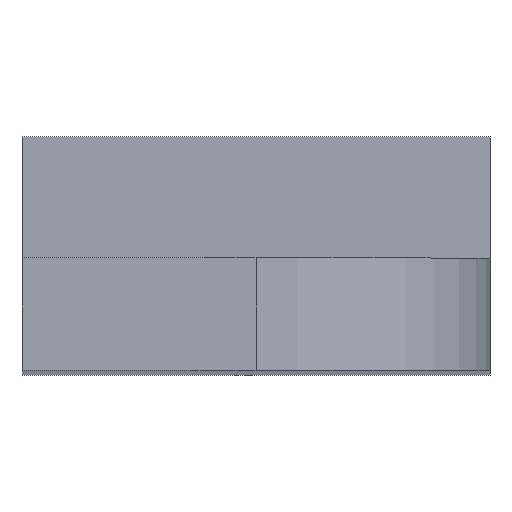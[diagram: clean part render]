
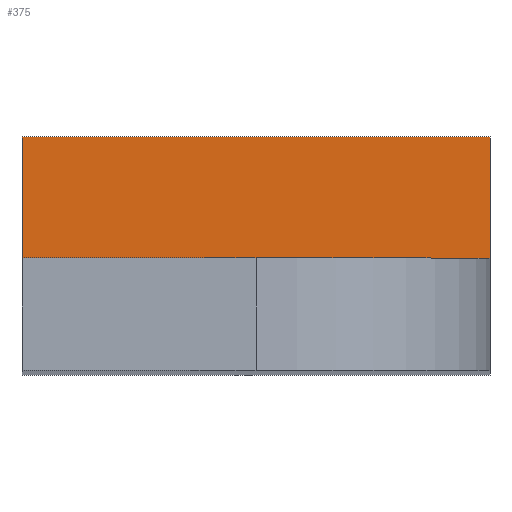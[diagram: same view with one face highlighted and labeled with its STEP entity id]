
A CAD part, top view. The second image highlights one B-rep face of the part: STEP entity #375.
In plain terms, the highlighted planar face has unit normal (0, 0, 1).
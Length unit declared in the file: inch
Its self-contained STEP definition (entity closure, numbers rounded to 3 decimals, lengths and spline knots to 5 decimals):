
#33=DIRECTION('',(1.,0.,0.));
#34=VECTOR('',#33,0.5);
#35=CARTESIAN_POINT('',(0.,0.12,0.125));
#36=LINE('',#35,#34);
#57=DIRECTION('',(0.,-1.,0.));
#58=VECTOR('',#57,0.13);
#59=CARTESIAN_POINT('',(0.,0.25,0.125));
#60=LINE('',#59,#58);
#77=DIRECTION('',(0.,-1.,0.));
#78=VECTOR('',#77,0.13);
#79=CARTESIAN_POINT('',(0.5,0.25,0.125));
#80=LINE('',#79,#78);
#120=DIRECTION('',(1.,0.,0.));
#121=VECTOR('',#120,0.5);
#122=CARTESIAN_POINT('',(0.,0.25,0.125));
#123=LINE('',#122,#121);
#189=CARTESIAN_POINT('',(0.,0.25,0.125));
#190=CARTESIAN_POINT('',(0.5,0.25,0.125));
#191=VERTEX_POINT('',#189);
#192=VERTEX_POINT('',#190);
#193=CARTESIAN_POINT('',(0.,0.12,0.125));
#195=VERTEX_POINT('',#193);
#217=CARTESIAN_POINT('',(0.5,0.12,0.125));
#218=VERTEX_POINT('',#217);
#363=CARTESIAN_POINT('',(0.,0.25,0.125));
#364=DIRECTION('',(0.,0.,-1.));
#365=DIRECTION('',(0.,-1.,0.));
#366=AXIS2_PLACEMENT_3D('',#363,#364,#365);
#367=PLANE('',#366);
#369=ORIENTED_EDGE('',*,*,#368,.T.);
#370=ORIENTED_EDGE('',*,*,#326,.T.);
#371=ORIENTED_EDGE('',*,*,#265,.F.);
#372=ORIENTED_EDGE('',*,*,#295,.F.);
#373=EDGE_LOOP('',(#369,#370,#371,#372));
#374=FACE_OUTER_BOUND('',#373,.F.);
#375=ADVANCED_FACE('',(#374),#367,.F.);
#265=EDGE_CURVE('',#195,#218,#36,.T.);
#295=EDGE_CURVE('',#191,#195,#60,.T.);
#326=EDGE_CURVE('',#192,#218,#80,.T.);
#368=EDGE_CURVE('',#191,#192,#123,.T.);
